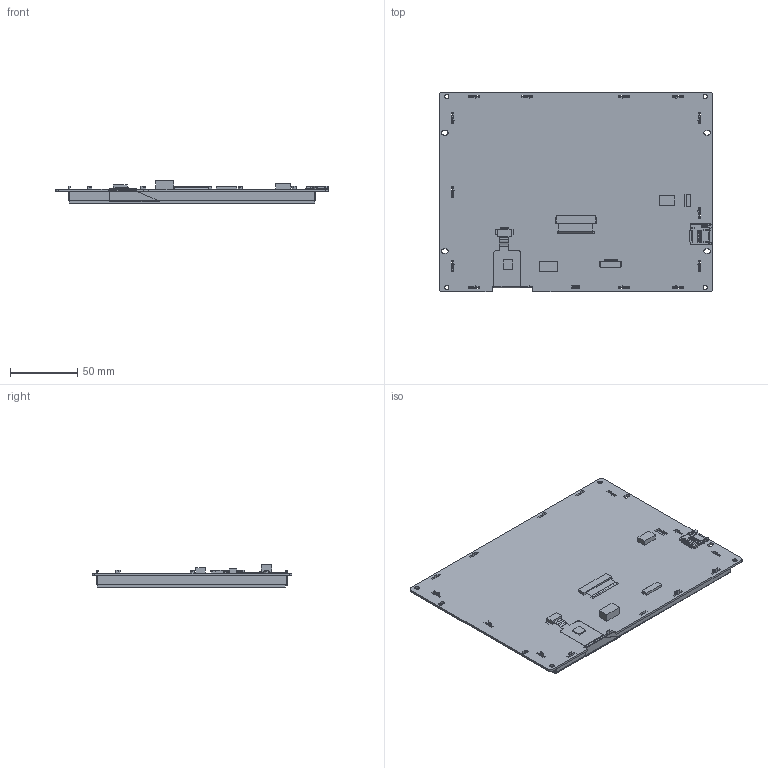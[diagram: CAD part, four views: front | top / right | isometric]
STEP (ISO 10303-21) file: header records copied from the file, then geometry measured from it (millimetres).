
FILE_DESCRIPTION(/* description */ (''),/* implementation_level */ '2;1');
FILE_NAME(/* name */ 'SDWb080T84C_stp.stp',/* time_stamp */ '2024-06-07T18:36:49+08:00',/* author */ (''),/* organization */ (''),/* preprocessor_version */ 'ST-DEVELOPER v16',/* originating_system */ 'SIEMENS PLM Software NX 10.0',/* authorisation */ '');
FILE_SCHEMA (('AP203_CONFIGURATION_CONTROLLED_3D_DESIGN_OF_MECHANICAL_PARTS_AND_ASSEMBLIES_MIM_LF { 1 0 10303 403 2 1 2}'));
Length unit declared in the file: millimetre
Products named in the file (1): SDWb080T84C_stp
Bounding box: 203.02 x 148.8 x 16.41 mm (x, y, z)
Volume: 94758.1 mm3; surface area: 142728.3 mm2
Topology: 16 solids, 16 shells, 1440 faces, 4086 edges, 2655 vertices
Faces by surface type: plane 1107, cylinder 332, cone 1
Full cylindrical faces by diameter (mm): 3.2 x4
Entity records: 47981 total; most frequent: CARTESIAN_POINT 8214, ORIENTED_EDGE 8164, DIRECTION 7617, EDGE_CURVE 4082, LINE 3405, VECTOR 3405, VERTEX_POINT 2655, AXIS2_PLACEMENT_3D 2106
